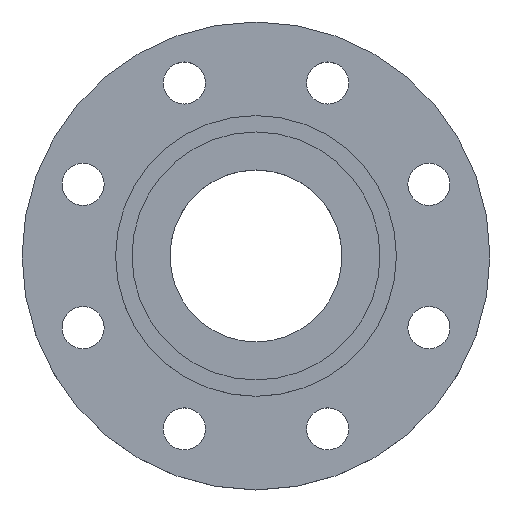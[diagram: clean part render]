
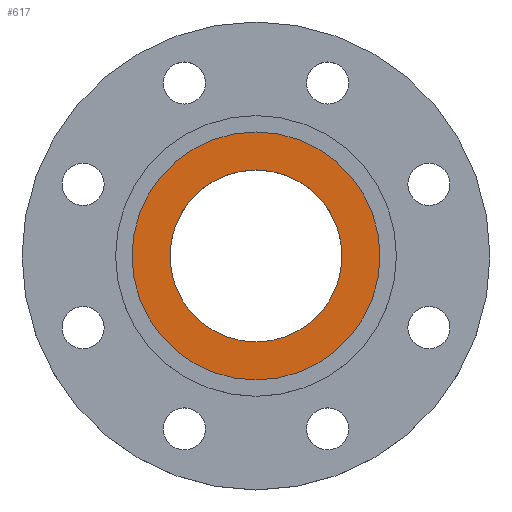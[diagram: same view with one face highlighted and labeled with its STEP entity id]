
A CAD part, top view. The second image highlights one B-rep face of the part: STEP entity #617.
In plain terms, the highlighted planar face has unit normal (0, 0, 1).
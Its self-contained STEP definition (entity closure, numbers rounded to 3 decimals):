
#35 = EDGE_CURVE ( 'NONE', #919, #738, #682, .T. ) ;
#126 = CARTESIAN_POINT ( 'NONE',  ( 36.753, 0., -4.5 ) ) ;
#127 = CARTESIAN_POINT ( 'NONE',  ( -53., 0., -4.5 ) ) ;
#149 = CARTESIAN_POINT ( 'NONE',  ( -36.753, 0., -4.5 ) ) ;
#184 = AXIS2_PLACEMENT_3D ( 'NONE', #365, #357, #358 ) ;
#218 = DIRECTION ( 'NONE',  ( -1., 0., 0. ) ) ;
#219 = DIRECTION ( 'NONE',  ( 0., 0., -1. ) ) ;
#220 = CARTESIAN_POINT ( 'NONE',  ( 0., 0., -4.5 ) ) ;
#232 = AXIS2_PLACEMENT_3D ( 'NONE', #220, #219, #218 ) ;
#256 = CIRCLE ( 'NONE', #232, 53. ) ;
#288 = CARTESIAN_POINT ( 'NONE',  ( 53., 0., -4.5 ) ) ;
#304 = CIRCLE ( 'NONE', #184, 36.753 ) ;
#357 = DIRECTION ( 'NONE',  ( 0., 0., 1. ) ) ;
#358 = DIRECTION ( 'NONE',  ( 1., 0., 0. ) ) ;
#365 = CARTESIAN_POINT ( 'NONE',  ( 0., 0., -4.5 ) ) ;
#403 = DIRECTION ( 'NONE',  ( 1., 0., 0. ) ) ;
#404 = DIRECTION ( 'NONE',  ( 0., 0., 1. ) ) ;
#405 = EDGE_CURVE ( 'NONE', #920, #906, #547, .T. ) ;
#406 = CARTESIAN_POINT ( 'NONE',  ( 53., 0., -4.5 ) ) ;
#409 = PLANE ( 'NONE',  #652 ) ;
#410 = FACE_OUTER_BOUND ( 'NONE', #735, .T. ) ;
#411 = FACE_BOUND ( 'NONE', #739, .T. ) ;
#441 = AXIS2_PLACEMENT_3D ( 'NONE', #792, #794, #795 ) ;
#547 = CIRCLE ( 'NONE', #812, 36.753 ) ;
#549 = DIRECTION ( 'NONE',  ( 1., 0., 0. ) ) ;
#573 = CARTESIAN_POINT ( 'NONE',  ( 0., 0., -4.5 ) ) ;
#617 = ADVANCED_FACE ( 'NONE', ( #411, #410 ), #409, .T. ) ;
#645 = EDGE_CURVE ( 'NONE', #906, #920, #304, .T. ) ;
#652 = AXIS2_PLACEMENT_3D ( 'NONE', #406, #404, #403 ) ;
#682 = CIRCLE ( 'NONE', #441, 53. ) ;
#735 = EDGE_LOOP ( 'NONE', ( #1054, #1056 ) ) ;
#738 = VERTEX_POINT ( 'NONE', #288 ) ;
#739 = EDGE_LOOP ( 'NONE', ( #1052, #1053 ) ) ;
#792 = CARTESIAN_POINT ( 'NONE',  ( 0., 0., -4.5 ) ) ;
#794 = DIRECTION ( 'NONE',  ( 0., 0., -1. ) ) ;
#795 = DIRECTION ( 'NONE',  ( -1., 0., 0. ) ) ;
#812 = AXIS2_PLACEMENT_3D ( 'NONE', #573, #875, #549 ) ;
#836 = EDGE_CURVE ( 'NONE', #738, #919, #256, .T. ) ;
#875 = DIRECTION ( 'NONE',  ( 0., 0., 1. ) ) ;
#906 = VERTEX_POINT ( 'NONE', #149 ) ;
#919 = VERTEX_POINT ( 'NONE', #127 ) ;
#920 = VERTEX_POINT ( 'NONE', #126 ) ;
#1052 = ORIENTED_EDGE ( 'NONE', *, *, #405, .F. ) ;
#1053 = ORIENTED_EDGE ( 'NONE', *, *, #645, .F. ) ;
#1054 = ORIENTED_EDGE ( 'NONE', *, *, #35, .F. ) ;
#1056 = ORIENTED_EDGE ( 'NONE', *, *, #836, .F. ) ;
